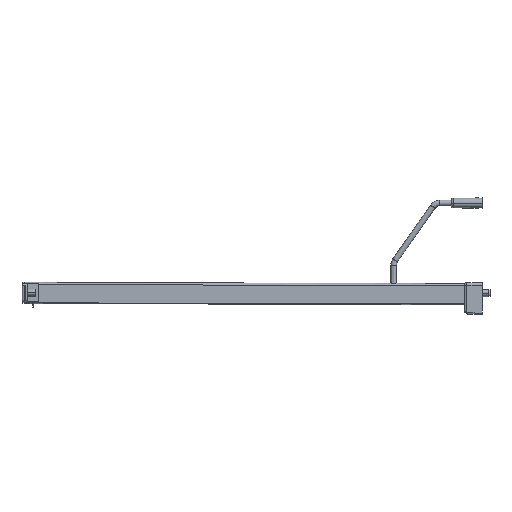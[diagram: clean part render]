
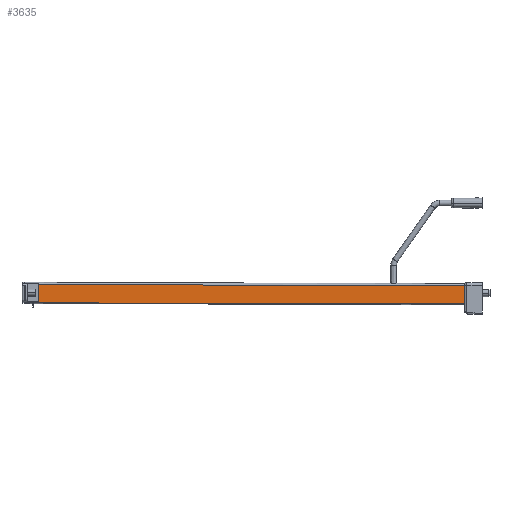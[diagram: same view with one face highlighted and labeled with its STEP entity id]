
A CAD part, left-side view. The second image highlights one B-rep face of the part: STEP entity #3635.
In plain terms, the highlighted planar face has unit normal (-1, 0, 0).
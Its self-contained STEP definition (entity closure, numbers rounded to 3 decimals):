
#542 = CARTESIAN_POINT ( 'NONE',  ( -5.25, 651.4, -13.798 ) ) ;
#548 = CARTESIAN_POINT ( 'NONE',  ( -5.25, 25., 10.5 ) ) ;
#1577 = VERTEX_POINT ( 'NONE', #3262 ) ;
#1592 = VERTEX_POINT ( 'NONE', #3277 ) ;
#1619 = VERTEX_POINT ( 'NONE', #3286 ) ;
#1623 = VERTEX_POINT ( 'NONE', #3290 ) ;
#1651 = VERTEX_POINT ( 'NONE', #542 ) ;
#1657 = VERTEX_POINT ( 'NONE', #548 ) ;
#2112 = FACE_OUTER_BOUND ( 'NONE', #5477, .T. ) ;
#2396 = LINE ( 'NONE', #3526, #2397 ) ;
#2397 = VECTOR ( 'NONE', #3527, 1000. ) ;
#2398 = LINE ( 'NONE', #3528, #2399 ) ;
#2399 = VECTOR ( 'NONE', #3529, 1000. ) ;
#2400 = LINE ( 'NONE', #3530, #2401 ) ;
#2401 = VECTOR ( 'NONE', #3531, 1000. ) ;
#2402 = LINE ( 'NONE', #3532, #2403 ) ;
#2403 = VECTOR ( 'NONE', #3533, 1000. ) ;
#2404 = LINE ( 'NONE', #3534, #2405 ) ;
#2405 = VECTOR ( 'NONE', #3535, 1000. ) ;
#2406 = LINE ( 'NONE', #3536, #2407 ) ;
#2407 = VECTOR ( 'NONE', #3537, 1000. ) ;
#3262 = CARTESIAN_POINT ( 'NONE',  ( -5.25, 651.4, -12.42 ) ) ;
#3277 = CARTESIAN_POINT ( 'NONE',  ( -5.25, 25., -15.5 ) ) ;
#3286 = CARTESIAN_POINT ( 'NONE',  ( -5.25, 630.9, -12.42 ) ) ;
#3290 = CARTESIAN_POINT ( 'NONE',  ( -5.25, 630.9, 12.147 ) ) ;
#3526 = CARTESIAN_POINT ( 'NONE',  ( -5.25, 684.152, 12.292 ) ) ;
#3527 = DIRECTION ( 'NONE',  ( 0., -1., -0.003 ) ) ;
#3528 = CARTESIAN_POINT ( 'NONE',  ( -5.25, 25., 15. ) ) ;
#3529 = DIRECTION ( 'NONE',  ( 0., 0., 1. ) ) ;
#3530 = CARTESIAN_POINT ( 'NONE',  ( -5.25, 684.222, -13.708 ) ) ;
#3531 = DIRECTION ( 'NONE',  ( 0., -1., -0.003 ) ) ;
#3532 = CARTESIAN_POINT ( 'NONE',  ( -5.25, 651.4, -13.708 ) ) ;
#3533 = DIRECTION ( 'NONE',  ( 0., 0., 1. ) ) ;
#3534 = CARTESIAN_POINT ( 'NONE',  ( -5.25, 630.9, -12.42 ) ) ;
#3535 = DIRECTION ( 'NONE',  ( 0., 1., 0. ) ) ;
#3536 = CARTESIAN_POINT ( 'NONE',  ( -5.25, 630.9, 13.6 ) ) ;
#3537 = DIRECTION ( 'NONE',  ( 0., 0., -1. ) ) ;
#3635 = ADVANCED_FACE ( 'NONE', ( #2112 ), #4660, .F. ) ;
#4660 = PLANE ( 'NONE',  #5005 ) ;
#4661 = CARTESIAN_POINT ( 'NONE',  ( -5.25, 684.222, -13.708 ) ) ;
#4662 = DIRECTION ( 'NONE',  ( 1., 0., 0. ) ) ;
#4663 = DIRECTION ( 'NONE',  ( 0., 0., 1. ) ) ;
#4751 = ORIENTED_EDGE ( 'NONE', *, *, #4820, .T. ) ;
#4752 = ORIENTED_EDGE ( 'NONE', *, *, #4819, .T. ) ;
#4754 = ORIENTED_EDGE ( 'NONE', *, *, #4818, .F. ) ;
#4818 = EDGE_CURVE ( 'NONE', #1623, #1657, #2396, .T. ) ;
#4819 = EDGE_CURVE ( 'NONE', #1592, #1657, #2398, .T. ) ;
#4820 = EDGE_CURVE ( 'NONE', #1651, #1592, #2400, .T. ) ;
#4821 = EDGE_CURVE ( 'NONE', #1651, #1577, #2402, .T. ) ;
#4822 = EDGE_CURVE ( 'NONE', #1619, #1577, #2404, .T. ) ;
#4823 = EDGE_CURVE ( 'NONE', #1623, #1619, #2406, .T. ) ;
#5005 = AXIS2_PLACEMENT_3D ( 'NONE', #4661, #4662, #4663 ) ;
#5310 = ORIENTED_EDGE ( 'NONE', *, *, #4823, .T. ) ;
#5406 = ORIENTED_EDGE ( 'NONE', *, *, #4821, .F. ) ;
#5407 = ORIENTED_EDGE ( 'NONE', *, *, #4822, .T. ) ;
#5477 = EDGE_LOOP ( 'NONE', ( #5310, #5407, #5406, #4751, #4752, #4754 ) ) ;
